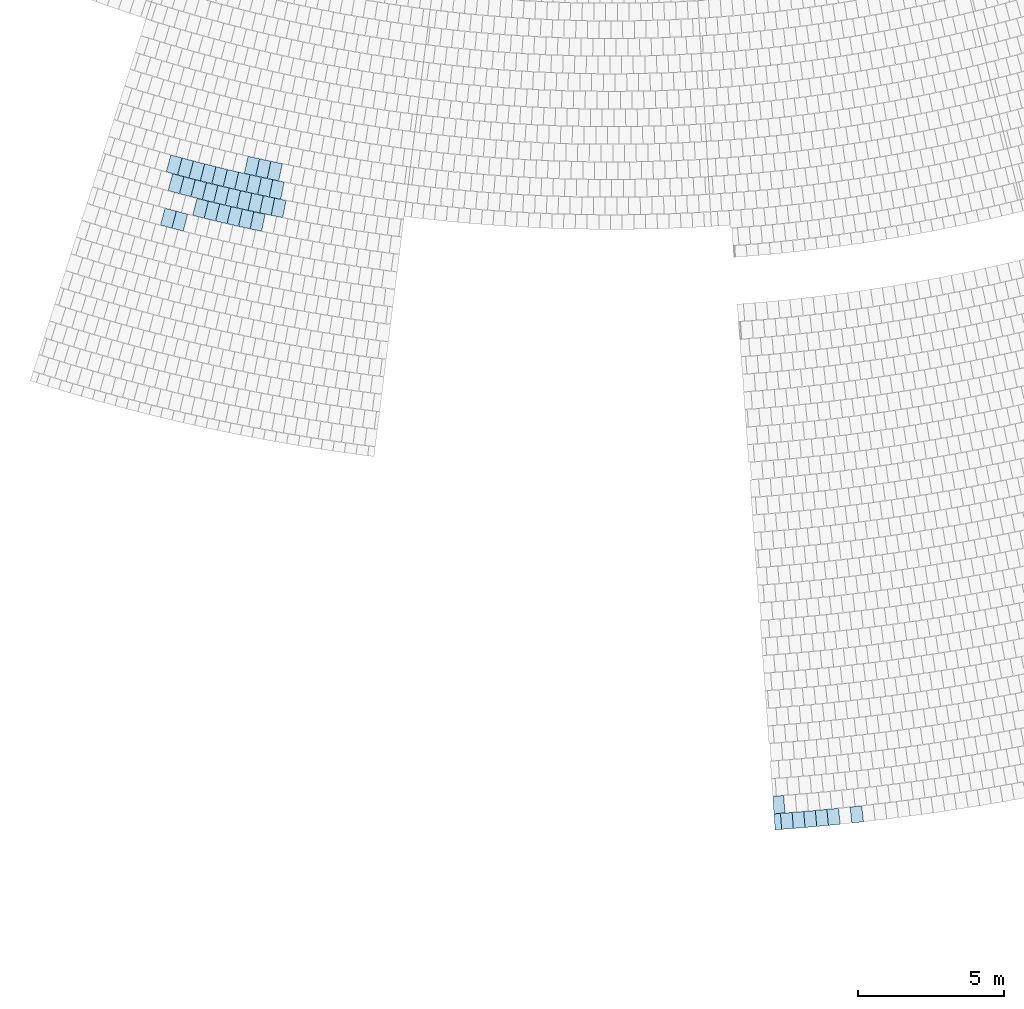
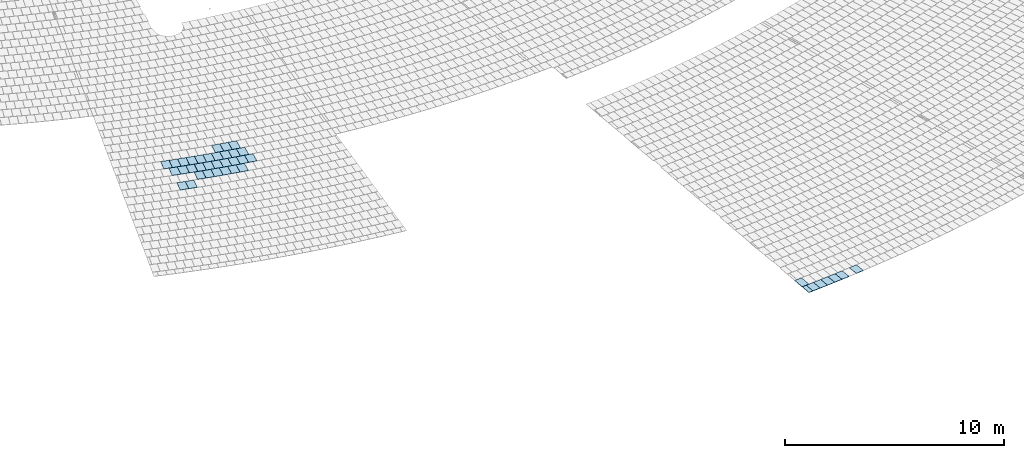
# One storey, part 22 of 438: 39 slabs.
"""IFC2X3 building model written with IfcOpenShell, lengths in millimetres."""

from ifc_helpers import new_model, entity, si_unit, converted_unit, derived_unit, direction, frame, frame_2d, origin, place, context, subcontext, project, spatial, polyline, rectangle, outline, extrude, material, layer, layer_set, layer_usage, type_object, element, save


model = new_model("IFC2X3")

# Units and contexts
model_context = context("Model", 3, precision=0.01, world=origin(), true_north=direction((6.123031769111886e-17, 1.0)))
body_context = subcontext(model_context, "Body", "Model", "MODEL_VIEW")
ifc_project = project(units=[si_unit("LENGTHUNIT", "METRE", prefix="MILLI"), si_unit("AREAUNIT", "SQUARE_METRE"), si_unit("VOLUMEUNIT", "CUBIC_METRE"), converted_unit("PLANEANGLEUNIT", "DEGREE", entity("IfcRatioMeasure", 0.017453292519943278), si_unit("PLANEANGLEUNIT", "RADIAN"), dimensions=[0, 0, 0, 0, 0, 0, 0]), si_unit("MASSUNIT", "GRAM", prefix="KILO"), derived_unit("MASSDENSITYUNIT", [(si_unit("MASSUNIT", "GRAM", prefix="KILO"), 1), (si_unit("LENGTHUNIT", "METRE"), -3)]), derived_unit("MOMENTOFINERTIAUNIT", [(si_unit("LENGTHUNIT", "METRE"), 4)]), si_unit("TIMEUNIT", "SECOND"), si_unit("FREQUENCYUNIT", "HERTZ"), si_unit("THERMODYNAMICTEMPERATUREUNIT", "DEGREE_CELSIUS"), derived_unit("THERMALTRANSMITTANCEUNIT", [(si_unit("MASSUNIT", "GRAM", prefix="KILO"), 1), (si_unit("THERMODYNAMICTEMPERATUREUNIT", "KELVIN"), -1), (si_unit("TIMEUNIT", "SECOND"), -3)]), derived_unit("THERMALCONDUCTANCEUNIT", [(si_unit("MASSUNIT", "GRAM", prefix="KILO"), 1), (si_unit("LENGTHUNIT", "METRE"), 1), (si_unit("THERMODYNAMICTEMPERATUREUNIT", "KELVIN"), -1), (si_unit("TIMEUNIT", "SECOND"), -3)]), derived_unit("VOLUMETRICFLOWRATEUNIT", [(si_unit("LENGTHUNIT", "METRE"), 3), (si_unit("TIMEUNIT", "SECOND"), -1)]), derived_unit("MASSFLOWRATEUNIT", [(si_unit("MASSUNIT", "GRAM", prefix="KILO"), 1), (si_unit("TIMEUNIT", "SECOND"), -1)]), derived_unit("ROTATIONALFREQUENCYUNIT", [(si_unit("TIMEUNIT", "SECOND"), -1)]), si_unit("ELECTRICCURRENTUNIT", "AMPERE"), si_unit("ELECTRICVOLTAGEUNIT", "VOLT"), si_unit("POWERUNIT", "WATT"), converted_unit("FORCEUNIT", "KIP", entity("IfcRatioMeasure", 2.088543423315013e-05), si_unit("FORCEUNIT", "NEWTON"), dimensions=[1, 1, -2, 0, 0, 0, 0]), si_unit("ILLUMINANCEUNIT", "LUX"), si_unit("LUMINOUSFLUXUNIT", "LUMEN"), si_unit("LUMINOUSINTENSITYUNIT", "CANDELA"), derived_unit("USERDEFINED", [(si_unit("MASSUNIT", "GRAM", prefix="KILO"), -1), (si_unit("LENGTHUNIT", "METRE"), -2), (si_unit("TIMEUNIT", "SECOND"), 3), (si_unit("LUMINOUSFLUXUNIT", "LUMEN"), 1)]), derived_unit("USERDEFINED", [(si_unit("MASSUNIT", "GRAM", prefix="KILO"), 1), (si_unit("LENGTHUNIT", "METRE"), 3), (si_unit("TIMEUNIT", "SECOND"), -3), (si_unit("ELECTRICCURRENTUNIT", "AMPERE"), -2)]), derived_unit("USERDEFINED", [(si_unit("LENGTHUNIT", "METRE"), 2), (si_unit("TIMEUNIT", "SECOND"), -2)]), derived_unit("SOUNDPOWERUNIT", [(si_unit("MASSUNIT", "GRAM", prefix="KILO"), 1), (si_unit("LENGTHUNIT", "METRE"), 2), (si_unit("TIMEUNIT", "SECOND"), -3)]), derived_unit("SOUNDPRESSUREUNIT", [(si_unit("MASSUNIT", "GRAM", prefix="KILO"), 1), (si_unit("LENGTHUNIT", "METRE"), -1), (si_unit("TIMEUNIT", "SECOND"), -2)]), derived_unit("LINEARVELOCITYUNIT", [(si_unit("LENGTHUNIT", "METRE"), 1), (si_unit("TIMEUNIT", "SECOND"), -1)]), si_unit("PRESSUREUNIT", "PASCAL"), derived_unit("USERDEFINED", [(si_unit("LENGTHUNIT", "METRE"), -2), (si_unit("MASSUNIT", "GRAM", prefix="KILO"), 1), (si_unit("TIMEUNIT", "SECOND"), -2)]), derived_unit("LINEARFORCEUNIT", [(si_unit("MASSUNIT", "GRAM", prefix="KILO"), 1), (si_unit("LENGTHUNIT", "METRE"), 1), (si_unit("TIMEUNIT", "SECOND"), -2), (si_unit("LENGTHUNIT", "METRE"), -1)]), derived_unit("PLANARFORCEUNIT", [(si_unit("MASSUNIT", "GRAM", prefix="KILO"), 1), (si_unit("LENGTHUNIT", "METRE"), 1), (si_unit("TIMEUNIT", "SECOND"), -2), (si_unit("LENGTHUNIT", "METRE"), -2)]), derived_unit("SPECIFICHEATCAPACITYUNIT", [(si_unit("LENGTHUNIT", "METRE"), 2), (si_unit("TIMEUNIT", "SECOND"), -2), (si_unit("THERMODYNAMICTEMPERATUREUNIT", "KELVIN"), -1)]), derived_unit("VAPORPERMEABILITYUNIT", [(si_unit("TIMEUNIT", "SECOND"), 1), (si_unit("LENGTHUNIT", "METRE"), -1)]), derived_unit("DYNAMICVISCOSITYUNIT", [(si_unit("MASSUNIT", "GRAM", prefix="KILO"), 1), (si_unit("LENGTHUNIT", "METRE"), -1), (si_unit("TIMEUNIT", "SECOND"), -1)]), derived_unit("THERMALEXPANSIONCOEFFICIENTUNIT", [(si_unit("THERMODYNAMICTEMPERATUREUNIT", "KELVIN"), -1)])], contexts=[model_context])

# Site, building, storey
site_placement = place(None, frame((0.0, 0.0, 0.0), z_axis=(0.0, 0.0, 1.0), x_axis=(0.8191520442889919, 0.5735764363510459, 0.0)))
site = spatial("IfcSite", under=ifc_project, at=site_placement, Name="Default", CompositionType="ELEMENT")
building_placement = place(site_placement, origin())
building = spatial("IfcBuilding", under=site, at=building_placement, CompositionType="ELEMENT")
storey_placement = place(building_placement, origin())
storey = spatial("IfcBuildingStorey", under=building, at=storey_placement, Name="PLAN", CompositionType="ELEMENT", Elevation=0.0)

# Slabs
ifc_material = material(Name="Paint-01")
ifc_layer = layer(ifc_material, 20.00000000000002)
ifc_layer_set = layer_set([ifc_layer], Name="Floor:Slab-179:1000")
ifc_layer_usage = layer_usage(ifc_layer_set, "AXIS3", "POSITIVE", 0.0)
slab_type = type_object("IfcSlabType", Name="Floor:Slab-179:1000", PredefinedType="FLOOR", material=ifc_layer_set)
slab_1_placement = place(storey_placement, origin())
element("IfcSlab", 1, at=slab_1_placement, inside=storey, type_object=slab_type, material=ifc_layer_usage, Name="Floor:Slab-179:1000", ObjectType="Floor:Slab-179:1000", PredefinedType="FLOOR", context=body_context, shape_type="SweptSolid", body=[
    extrude(outline(polyline([(-275.00000059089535, -111.17667007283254), (274.9999994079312, -111.17667007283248), (275.0000005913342, 111.25575875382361), (-274.99999940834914, 111.09758139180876), (-275.00000059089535, -111.17667007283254)])), frame((-80104.99452993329, -134719.63903402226, 20.0), z_axis=(0.0, 0.0, -1.0), x_axis=(-0.5128225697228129, -0.8584946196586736, 0.0)), (0.0, 0.0, 1.0), 20.000000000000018),
])
slab_2_placement = place(storey_placement, origin())
element("IfcSlab", 2, at=slab_2_placement, inside=storey, type_object=slab_type, material=ifc_layer_usage, Name="Floor:Slab-179:1000", ObjectType="Floor:Slab-179:1000", PredefinedType="FLOOR", context=body_context, shape_type="SweptSolid", body=[
    extrude(outline(polyline([(-275.00000106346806, -200.0000029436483), (274.9999989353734, -200.00000294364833), (275.00000106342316, 200.00000294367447), (-274.99999893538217, 200.00000294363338), (-275.00000106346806, -200.0000029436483)])), frame((-79489.90205248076, -135082.23535696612, 20.0), z_axis=(0.0, 0.0, -1.0), x_axis=(-0.5039277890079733, -0.8637457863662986, 0.0)), (0.0, 0.0, 1.0), 20.00000000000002),
])
slab_3_placement = place(storey_placement, origin())
element("IfcSlab", 3, at=slab_3_placement, inside=storey, type_object=slab_type, material=ifc_layer_usage, Name="Floor:Slab-179:1000", ObjectType="Floor:Slab-179:1000", PredefinedType="FLOOR", context=body_context, shape_type="SweptSolid", body=[
    extrude(outline(polyline([(-275.0000010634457, -200.00000294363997), (274.99999893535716, -200.00000294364), (275.0000010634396, 200.00000294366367), (-274.9999989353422, 200.0000029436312), (-275.0000010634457, -200.00000294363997)])), frame((-79836.10244921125, -134879.054527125, 20.0), z_axis=(0.0, 0.0, -1.0), x_axis=(-0.5083819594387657, -0.8611316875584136, 0.0)), (0.0, 0.0, 1.0), 20.00000000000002),
])
slab_4_placement = place(storey_placement, origin())
element("IfcSlab", 4, at=slab_4_placement, inside=storey, type_object=slab_type, material=ifc_layer_usage, Name="Floor:Slab-179:1000", ObjectType="Floor:Slab-179:1000", PredefinedType="FLOOR", context=body_context, shape_type="SweptSolid", body=[
    extrude(rectangle(XDim=549.9998931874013, YDim=399.99992820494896, at=frame_2d((1.6143530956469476e-11, 1.0672351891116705e-11), x_axis=(1.0, 0.0))), frame((-79142.74302947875, -135283.43185565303, 20.0), z_axis=(0.0, 0.0, -1.0), x_axis=(-0.4999999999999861, -0.8660254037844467, 0.0)), (0.0, 0.0, 1.0), 20.00000000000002),
])
slab_5_placement = place(storey_placement, origin())
element("IfcSlab", 5, at=slab_5_placement, inside=storey, type_object=slab_type, material=ifc_layer_usage, Name="Floor:Slab-179:1000", ObjectType="Floor:Slab-179:1000", PredefinedType="FLOOR", context=body_context, shape_type="SweptSolid", body=[
    extrude(outline(polyline([(-275.0000010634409, -200.0000029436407), (274.99999893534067, -200.00000294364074), (275.00000106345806, 200.00000294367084), (-274.99999893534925, 200.00000294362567), (-275.0000010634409, -200.0000029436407)])), frame((-78794.37633670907, -135483.21956851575, 20.0), z_axis=(0.0, 0.0, -1.0), x_axis=(-0.49497924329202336, -0.8689047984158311, 0.0)), (0.0, 0.0, 1.0), 20.000000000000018),
])
slab_6_placement = place(storey_placement, origin())
element("IfcSlab", 6, at=slab_6_placement, inside=storey, type_object=slab_type, material=ifc_layer_usage, Name="Floor:Slab-179:1000", ObjectType="Floor:Slab-179:1000", PredefinedType="FLOOR", context=body_context, shape_type="SweptSolid", body=[
    extrude(outline(polyline([(-275.0000010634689, -200.00000294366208), (274.99999893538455, -200.00000294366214), (275.0000010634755, 200.0000029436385), (-274.9999989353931, 200.00000294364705), (-275.0000010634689, -200.00000294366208)])), frame((-78445.06956952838, -135681.01225471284, 20.0), z_axis=(0.0, 0.0, -1.0), x_axis=(-0.490485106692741, -0.8714495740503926, 0.0)), (0.0, 0.0, 1.0), 20.00000000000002),
])
slab_7_placement = place(storey_placement, origin())
element("IfcSlab", 7, at=slab_7_placement, inside=storey, type_object=slab_type, material=ifc_layer_usage, Name="Floor:Slab-179:1000", ObjectType="Floor:Slab-179:1000", PredefinedType="FLOOR", context=body_context, shape_type="SweptSolid", body=[
    extrude(outline(polyline([(-275.0000010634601, -200.00000294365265), (274.9999989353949, -200.00000294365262), (275.00000106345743, 200.00000294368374), (-274.9999989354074, 200.00000294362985), (-275.0000010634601, -200.00000294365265)])), frame((-77743.41480188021, -136071.1724093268, 20.0), z_axis=(0.0, 0.0, -1.0), x_axis=(-0.48145770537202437, -0.8764693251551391, 0.0)), (0.0, 0.0, 1.0), 20.00000000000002),
])
slab_8_placement = place(storey_placement, origin())
element("IfcSlab", 8, at=slab_8_placement, inside=storey, type_object=slab_type, material=ifc_layer_usage, Name="Floor:Slab-179:1000", ObjectType="Floor:Slab-179:1000", PredefinedType="FLOOR", context=body_context, shape_type="SweptSolid", body=[
    extrude(outline(polyline([(-300.0000009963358, -187.17358979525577), (299.9999990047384, -187.17358979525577), (300.00000099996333, 187.8515877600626), (-299.9999990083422, 186.49559183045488), (-300.0000009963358, -187.17358979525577)])), frame((-79742.08172411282, -134260.61987225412, 20.0), z_axis=(0.0, 0.0, -1.0), x_axis=(-0.5111282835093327, -0.8595044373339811, 0.0)), (0.0, 0.0, 1.0), 20.000000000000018),
])
slab_9_placement = place(storey_placement, origin())
element("IfcSlab", 9, at=slab_9_placement, inside=storey, type_object=slab_type, material=ifc_layer_usage, Name="Floor:Slab-179:1000", ObjectType="Floor:Slab-179:1000", PredefinedType="FLOOR", context=body_context, shape_type="SweptSolid", body=[
    extrude(outline(polyline([(-299.99999762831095, -200.00000294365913), (300.0, -200.00000294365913), (299.99999762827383, 200.0000029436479), (-300.0, 200.00000294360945), (-299.99999762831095, -200.00000294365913)])), frame((-81748.6978833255, -107077.23027932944, 520.0), z_axis=(0.0, 0.0, -1.0), x_axis=(-0.7269734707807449, -0.6866655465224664, 0.0)), (0.0, 0.0, 1.0), 19.99999999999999),
])
slab_10_placement = place(storey_placement, origin())
element("IfcSlab", 10, at=slab_10_placement, inside=storey, type_object=slab_type, material=ifc_layer_usage, Name="Floor:Slab-179:1000", ObjectType="Floor:Slab-179:1000", PredefinedType="FLOOR", context=body_context, shape_type="SweptSolid", body=[
    extrude(outline(polyline([(-299.9999976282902, -200.00000294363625), (300.0, -200.00000294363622), (299.9999976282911, 200.00000294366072), (-300.0, 200.00000294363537), (-299.9999976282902, -200.00000294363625)])), frame((-82023.78291301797, -106783.93133704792, 520.0), z_axis=(0.0, 0.0, -1.0), x_axis=(-0.7318007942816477, -0.681518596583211, 0.0)), (0.0, 0.0, 1.0), 20.000000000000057),
])
slab_11_placement = place(storey_placement, origin())
element("IfcSlab", 11, at=slab_11_placement, inside=storey, type_object=slab_type, material=ifc_layer_usage, Name="Floor:Slab-179:1000", ObjectType="Floor:Slab-179:1000", PredefinedType="FLOOR", context=body_context, shape_type="SweptSolid", body=[
    extrude(outline(polyline([(-200.00000134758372, -299.9999986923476), (200.000004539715, -299.9999986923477), (200.0000013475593, 299.99999869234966), (-200.00000453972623, 299.99999869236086), (-200.00000134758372, -299.9999986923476)])), frame((-84206.51700184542, -105240.58715634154, 520.0), z_axis=(0.0, 0.0, -1.0), x_axis=(0.6475602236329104, -0.762014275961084, 0.0)), (0.0, 0.0, 1.0), 20.000000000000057),
])
slab_12_placement = place(storey_placement, origin())
element("IfcSlab", 12, at=slab_12_placement, inside=storey, type_object=slab_type, material=ifc_layer_usage, Name="Floor:Slab-179:1000", ObjectType="Floor:Slab-179:1000", PredefinedType="FLOOR", context=body_context, shape_type="SweptSolid", body=[
    extrude(outline(polyline([(-200.00000134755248, -299.99999869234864), (200.00000453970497, -299.99999869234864), (200.0000013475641, 299.9999986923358), (-200.00000453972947, 299.99999869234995), (-200.00000134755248, -299.99999869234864)])), frame((-83148.02153623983, -106451.48741320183, 520.0), z_axis=(0.0, 0.0, -1.0), x_axis=(0.6685864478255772, -0.7436344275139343, 0.0)), (0.0, 0.0, 1.0), 20.000000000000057),
])
slab_13_placement = place(storey_placement, origin())
element("IfcSlab", 13, at=slab_13_placement, inside=storey, type_object=slab_type, material=ifc_layer_usage, Name="Floor:Slab-179:1000", ObjectType="Floor:Slab-179:1000", PredefinedType="FLOOR", context=body_context, shape_type="SweptSolid", body=[
    extrude(outline(polyline([(-200.00000134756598, -299.9999986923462), (200.00000453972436, -299.99999869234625), (200.00000134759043, 299.99999869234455), (-200.00000453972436, 299.99999869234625), (-200.00000134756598, -299.9999986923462)])), frame((-83681.49658631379, -105849.73254880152, 520.0), z_axis=(0.0, 0.0, -1.0), x_axis=(0.6581375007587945, -0.7528977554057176, 0.0)), (0.0, 0.0, 1.0), 20.000000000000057),
])
slab_14_placement = place(storey_placement, origin())
element("IfcSlab", 14, at=slab_14_placement, inside=storey, type_object=slab_type, material=ifc_layer_usage, Name="Floor:Slab-179:1000", ObjectType="Floor:Slab-179:1000", PredefinedType="FLOOR", context=body_context, shape_type="SweptSolid", body=[
    extrude(outline(polyline([(-200.00000134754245, -299.9999986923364), (200.00000453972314, -299.9999986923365), (200.00000134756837, 299.99999869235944), (-200.00000453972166, 299.9999986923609), (-200.00000134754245, -299.9999986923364)])), frame((-83415.80942761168, -106151.54116455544, 520.0), z_axis=(0.0, 0.0, -1.0), x_axis=(0.6633781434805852, -0.7482843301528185, 0.0)), (0.0, 0.0, 1.0), 20.000000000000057),
])
slab_15_placement = place(storey_placement, origin())
element("IfcSlab", 15, at=slab_15_placement, inside=storey, type_object=slab_type, material=ifc_layer_usage, Name="Floor:Slab-179:1000", ObjectType="Floor:Slab-179:1000", PredefinedType="FLOOR", context=body_context, shape_type="SweptSolid", body=[
    extrude(outline(polyline([(-200.00000134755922, -299.99999869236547), (200.0000045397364, -299.99999869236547), (200.00000134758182, 299.9999986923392), (-200.00000453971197, 299.99999869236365), (-200.00000134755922, -299.99999869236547)])), frame((-83945.07006062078, -105546.0762785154, 520.0), z_axis=(0.0, 0.0, -1.0), x_axis=(0.6528647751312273, -0.7574744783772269, 0.0)), (0.0, 0.0, 1.0), 20.000000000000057),
])
slab_16_placement = place(storey_placement, origin())
element("IfcSlab", 16, at=slab_16_placement, inside=storey, type_object=slab_type, material=ifc_layer_usage, Name="Floor:Slab-179:1000", ObjectType="Floor:Slab-179:1000", PredefinedType="FLOOR", context=body_context, shape_type="SweptSolid", body=[
    extrude(outline(polyline([(-200.00000134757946, -299.9999986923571), (200.00000453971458, -299.99999869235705), (200.00000134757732, 299.99999869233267), (-200.00000453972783, 299.9999986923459), (-200.00000134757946, -299.9999986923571)])), frame((-84465.8246649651, -104933.28007427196, 520.0), z_axis=(0.0, 0.0, -1.0), x_axis=(0.6422241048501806, -0.7665169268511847, 0.0)), (0.0, 0.0, 1.0), 20.000000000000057),
])
slab_17_placement = place(storey_placement, origin())
element("IfcSlab", 17, at=slab_17_placement, inside=storey, type_object=slab_type, material=ifc_layer_usage, Name="Floor:Slab-179:1000", ObjectType="Floor:Slab-179:1000", PredefinedType="FLOOR", context=body_context, shape_type="SweptSolid", body=[
    extrude(outline(polyline([(-299.99999762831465, -200.00000294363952), (300.0, -200.00000294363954), (299.9999976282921, 200.00000294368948), (-300.0, 200.00000294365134), (-299.99999762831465, -200.00000294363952)])), frame((-82606.19587377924, -107045.73441352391, 520.0), z_axis=(0.0, 0.0, -1.0), x_axis=(-0.7342261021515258, -0.6789050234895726, 0.0)), (0.0, 0.0, 1.0), 20.000000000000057),
])
slab_18_placement = place(storey_placement, origin())
element("IfcSlab", 18, at=slab_18_placement, inside=storey, type_object=slab_type, material=ifc_layer_usage, Name="Floor:Slab-179:1000", ObjectType="Floor:Slab-179:1000", PredefinedType="FLOOR", context=body_context, shape_type="SweptSolid", body=[
    extrude(outline(polyline([(-299.99999762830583, -200.00000294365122), (300.0, -200.0000029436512), (299.99999762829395, 200.00000294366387), (-300.0, 200.0000029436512), (-299.99999762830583, -200.00000294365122)])), frame((-82332.18451562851, -107340.00619682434, 520.0), z_axis=(0.0, 0.0, -1.0), x_axis=(-0.7294681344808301, -0.6840147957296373, 0.0)), (0.0, 0.0, 1.0), 20.000000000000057),
])
slab_19_placement = place(storey_placement, origin())
element("IfcSlab", 19, at=slab_19_placement, inside=storey, type_object=slab_type, material=ifc_layer_usage, Name="Floor:Slab-179:1000", ObjectType="Floor:Slab-179:1000", PredefinedType="FLOOR", context=body_context, shape_type="SweptSolid", body=[
    extrude(outline(polyline([(-299.9999976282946, -200.00000294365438), (300.0, -200.00000294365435), (299.999997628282, 200.00000294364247), (-300.0, 200.0000029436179), (-299.9999976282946, -200.00000294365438)])), frame((-82056.12524938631, -107632.35767768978, 520.0), z_axis=(0.0, 0.0, -1.0), x_axis=(-0.7246746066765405, -0.6890912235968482, 0.0)), (0.0, 0.0, 1.0), 20.000000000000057),
])
slab_20_placement = place(storey_placement, origin())
element("IfcSlab", 20, at=slab_20_placement, inside=storey, type_object=slab_type, material=ifc_layer_usage, Name="Floor:Slab-179:1000", ObjectType="Floor:Slab-179:1000", PredefinedType="FLOOR", context=body_context, shape_type="SweptSolid", body=[
    extrude(outline(polyline([(-200.00000134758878, -299.9999986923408), (200.00000453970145, -299.9999986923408), (200.00000134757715, 299.99999869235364), (-200.00000453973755, 299.99999869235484), (-200.00000134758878, -299.9999986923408)])), frame((-83458.97798189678, -107009.96791165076, 520.0), z_axis=(0.0, 0.0, -1.0), x_axis=(0.6712324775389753, -0.7412468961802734, 0.0)), (0.0, 0.0, 1.0), 20.000000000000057),
])
slab_21_placement = place(storey_placement, origin())
element("IfcSlab", 21, at=slab_21_placement, inside=storey, type_object=slab_type, material=ifc_layer_usage, Name="Floor:Slab-179:1000", ObjectType="Floor:Slab-179:1000", PredefinedType="FLOOR", context=body_context, shape_type="SweptSolid", body=[
    extrude(outline(polyline([(-200.00000134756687, -299.99999869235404), (200.00000453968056, -299.99999869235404), (200.00000134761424, 299.99999869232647), (-200.00000453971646, 299.99999869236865), (-200.00000134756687, -299.99999869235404)])), frame((-83994.60900864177, -106410.18972741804, 520.0), z_axis=(0.0, 0.0, -1.0), x_axis=(0.6609261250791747, -0.7504509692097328, 0.0)), (0.0, 0.0, 1.0), 19.999999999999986),
])
slab_22_placement = place(storey_placement, origin())
element("IfcSlab", 22, at=slab_22_placement, inside=storey, type_object=slab_type, material=ifc_layer_usage, Name="Floor:Slab-179:1000", ObjectType="Floor:Slab-179:1000", PredefinedType="FLOOR", context=body_context, shape_type="SweptSolid", body=[
    extrude(outline(polyline([(-200.0000013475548, -299.9999986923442), (200.000004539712, -299.9999986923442), (200.00000134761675, 299.99999869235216), (-200.00000453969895, 299.9999986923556), (-200.0000013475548, -299.9999986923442)])), frame((-84259.30385999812, -106107.53946451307, 520.0), z_axis=(0.0, 0.0, -1.0), x_axis=(0.6557255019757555, -0.754999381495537, 0.0)), (0.0, 0.0, 1.0), 20.000000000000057),
])
slab_23_placement = place(storey_placement, origin())
element("IfcSlab", 23, at=slab_23_placement, inside=storey, type_object=slab_type, material=ifc_layer_usage, Name="Floor:Slab-179:1000", ObjectType="Floor:Slab-179:1000", PredefinedType="FLOOR", context=body_context, shape_type="SweptSolid", body=[
    extrude(outline(polyline([(-200.0000013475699, -299.99999869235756), (200.0000045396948, -299.99999869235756), (200.00000134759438, 299.9999986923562), (-200.00000453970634, 299.99999869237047), (-200.0000013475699, -299.99999869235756)])), frame((-83727.82947107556, -106711.00399620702, 520.0), z_axis=(0.0, 0.0, -1.0), x_axis=(0.666095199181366, -0.7458667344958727, 0.0)), (0.0, 0.0, 1.0), 20.000000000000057),
])
slab_24_placement = place(storey_placement, origin())
element("IfcSlab", 24, at=slab_24_placement, inside=storey, type_object=slab_type, material=ifc_layer_usage, Name="Floor:Slab-179:1000", ObjectType="Floor:Slab-179:1000", PredefinedType="FLOOR", context=body_context, shape_type="SweptSolid", body=[
    extrude(outline(polyline([(-299.9999976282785, -200.00000294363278), (300.0, -200.00000294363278), (299.99999762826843, 200.00000294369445), (-300.0, 200.0000029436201), (-299.9999976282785, -200.00000294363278)])), frame((-82915.11058099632, -107602.28768789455, 520.0), z_axis=(0.0, 0.0, -1.0), x_axis=(-0.7319012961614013, -0.681410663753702, 0.0)), (0.0, 0.0, 1.0), 19.999999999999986),
])
slab_25_placement = place(storey_placement, origin())
element("IfcSlab", 25, at=slab_25_placement, inside=storey, type_object=slab_type, material=ifc_layer_usage, Name="Floor:Slab-179:1000", ObjectType="Floor:Slab-179:1000", PredefinedType="FLOOR", context=body_context, shape_type="SweptSolid", body=[
    extrude(outline(polyline([(-200.0000013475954, -300.0), (200.00000453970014, -300.0), (200.00000134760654, 300.0), (-200.00000453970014, 300.0), (-200.0000013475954, -300.0)])), frame((-85357.84303138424, -105752.66214919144, 520.0), z_axis=(0.0, 0.0, -1.0), x_axis=(0.6429433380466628, -0.7659137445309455, 0.0)), (0.0, 0.0, 1.0), 20.00000000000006),
])
slab_26_placement = place(storey_placement, origin())
element("IfcSlab", 26, at=slab_26_placement, inside=storey, type_object=slab_type, material=ifc_layer_usage, Name="Floor:Slab-179:1000", ObjectType="Floor:Slab-179:1000", PredefinedType="FLOOR", context=body_context, shape_type="SweptSolid", body=[
    extrude(outline(polyline([(-200.000001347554, -300.0), (200.00000453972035, -300.0), (200.0000013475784, 300.0), (-200.00000453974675, 300.0), (-200.000001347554, -300.0)])), frame((-85098.29709475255, -106059.71142148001, 520.0), z_axis=(0.0, 0.0, -1.0), x_axis=(0.6481652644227, -0.76149969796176, 0.0)), (0.0, 0.0, 1.0), 19.999999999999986),
])
slab_27_placement = place(storey_placement, origin())
element("IfcSlab", 27, at=slab_27_placement, inside=storey, type_object=slab_type, material=ifc_layer_usage, Name="Floor:Slab-179:1000", ObjectType="Floor:Slab-179:1000", PredefinedType="FLOOR", context=body_context, shape_type="SweptSolid", body=[
    extrude(outline(polyline([(-200.00000134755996, -299.99999869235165), (200.0000045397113, -299.99999869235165), (200.0000013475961, 299.9999986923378), (-200.00000453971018, 299.99999869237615), (-200.00000134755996, -299.99999869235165)])), frame((-81986.87967559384, -105931.16628919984, 520.0), z_axis=(0.0, 0.0, -1.0), x_axis=(0.6737064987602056, -0.7389990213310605, 0.0)), (0.0, 0.0, 1.0), 19.999999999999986),
])
slab_28_placement = place(storey_placement, origin())
element("IfcSlab", 28, at=slab_28_placement, inside=storey, type_object=slab_type, material=ifc_layer_usage, Name="Floor:Slab-179:1000", ObjectType="Floor:Slab-179:1000", PredefinedType="FLOOR", context=body_context, shape_type="SweptSolid", body=[
    extrude(outline(polyline([(-200.00000134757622, -299.999998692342), (200.00000453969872, -299.99999869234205), (200.00000134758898, 299.99999869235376), (-200.00000453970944, 299.9999986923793), (-200.00000134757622, -299.999998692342)])), frame((-82296.79144375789, -106488.69857252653, 520.0), z_axis=(0.0, 0.0, -1.0), x_axis=(0.676337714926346, -0.7365916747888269, 0.0)), (0.0, 0.0, 1.0), 19.99999999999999),
])
slab_29_placement = place(storey_placement, origin())
element("IfcSlab", 29, at=slab_29_placement, inside=storey, type_object=slab_type, material=ifc_layer_usage, Name="Floor:Slab-179:1000", ObjectType="Floor:Slab-179:1000", PredefinedType="FLOOR", context=body_context, shape_type="SweptSolid", body=[
    extrude(outline(polyline([(-200.00000134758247, -299.9999986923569), (200.0000045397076, -299.9999986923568), (200.00000134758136, 299.99999869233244), (-200.0000045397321, 299.99999869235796), (-200.00000134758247, -299.9999986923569)])), frame((-82878.14596633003, -106749.55667295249, 520.0), z_axis=(0.0, 0.0, -1.0), x_axis=(0.6737621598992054, -0.7389482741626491, 0.0)), (0.0, 0.0, 1.0), 20.000000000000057),
])
slab_30_placement = place(storey_placement, origin())
element("IfcSlab", 30, at=slab_30_placement, inside=storey, type_object=slab_type, material=ifc_layer_usage, Name="Floor:Slab-179:1000", ObjectType="Floor:Slab-179:1000", PredefinedType="FLOOR", context=body_context, shape_type="SweptSolid", body=[
    extrude(outline(polyline([(-200.0000013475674, -299.9999986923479), (200.00000453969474, -299.9999986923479), (200.0000013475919, 299.9999986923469), (-200.00000453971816, 299.9999986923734), (-200.0000013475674, -299.9999986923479)])), frame((-83188.06737460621, -107307.06720284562, 520.0), z_axis=(0.0, 0.0, -1.0), x_axis=(0.6763377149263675, -0.736591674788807, 0.0)), (0.0, 0.0, 1.0), 20.000000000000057),
])
slab_31_placement = place(storey_placement, origin())
element("IfcSlab", 31, at=slab_31_placement, inside=storey, type_object=slab_type, material=ifc_layer_usage, Name="Floor:Slab-179:1000", ObjectType="Floor:Slab-179:1000", PredefinedType="FLOOR", context=body_context, shape_type="SweptSolid", body=[
    extrude(outline(polyline([(-299.999997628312, -200.00000294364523), (300.0, -200.00000294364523), (299.99999762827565, 200.00000294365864), (-300.0, 200.00000294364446), (-299.999997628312, -200.00000294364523)])), frame((-81440.81267376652, -106521.64073413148, 520.0), z_axis=(0.0, 0.0, -1.0), x_axis=(-0.7293135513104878, -0.6841796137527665, 0.0)), (0.0, 0.0, 1.0), 20.000000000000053),
])
slab_32_placement = place(storey_placement, origin())
element("IfcSlab", 32, at=slab_32_placement, inside=storey, type_object=slab_type, material=ifc_layer_usage, Name="Floor:Slab-179:1000", ObjectType="Floor:Slab-179:1000", PredefinedType="FLOOR", context=body_context, shape_type="SweptSolid", body=[
    extrude(outline(polyline([(-299.9999976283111, -200.00000294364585), (300.0, -200.00000294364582), (299.9999976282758, 200.00000294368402), (-300.0, 200.00000294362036), (-299.9999976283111, -200.00000294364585)])), frame((-81714.89908918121, -106227.37724028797, 520.0), z_axis=(0.0, 0.0, -1.0), x_axis=(-0.7341749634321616, -0.6789603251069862, 0.0)), (0.0, 0.0, 1.0), 19.999999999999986),
])
slab_33_placement = place(storey_placement, origin())
element("IfcSlab", 33, at=slab_33_placement, inside=storey, type_object=slab_type, material=ifc_layer_usage, Name="Floor:Slab-179:1000", ObjectType="Floor:Slab-179:1000", PredefinedType="FLOOR", context=body_context, shape_type="SweptSolid", body=[
    extrude(outline(polyline([(-200.0000013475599, -299.99999869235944), (200.00000453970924, -299.9999986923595), (200.00000134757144, 299.99999869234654), (-200.00000453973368, 299.99999869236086), (-200.0000013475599, -299.99999869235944)])), frame((-82836.524735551, -105892.49047577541, 520.0), z_axis=(0.0, 0.0, -1.0), x_axis=(0.6658751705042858, -0.7460631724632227, 0.0)), (0.0, 0.0, 1.0), 20.000000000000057),
])
slab_34_placement = place(storey_placement, origin())
element("IfcSlab", 34, at=slab_34_placement, inside=storey, type_object=slab_type, material=ifc_layer_usage, Name="Floor:Slab-179:1000", ObjectType="Floor:Slab-179:1000", PredefinedType="FLOOR", context=body_context, shape_type="SweptSolid", body=[
    extrude(outline(polyline([(-200.00000134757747, -299.9999986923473), (200.00000453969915, -299.9999986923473), (200.00000134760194, 299.99999869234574), (-200.00000453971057, 299.9999986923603), (-200.00000134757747, -299.9999986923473)])), frame((-83103.22262104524, -105591.54483121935, 520.0), z_axis=(0.0, 0.0, -1.0), x_axis=(0.6605940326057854, -0.7507433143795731, 0.0)), (0.0, 0.0, 1.0), 20.000000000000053),
])
slab_35_placement = place(storey_placement, origin())
element("IfcSlab", 35, at=slab_35_placement, inside=storey, type_object=slab_type, material=ifc_layer_usage, Name="Floor:Slab-179:1000", ObjectType="Floor:Slab-179:1000", PredefinedType="FLOOR", context=body_context, shape_type="SweptSolid", body=[
    extrude(outline(polyline([(-200.00000134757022, -299.9999986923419), (200.00000453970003, -299.9999986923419), (200.00000134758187, 299.9999986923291), (-200.0000045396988, 299.9999986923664), (-200.00000134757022, -299.9999986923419)])), frame((-82567.70988131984, -106191.54668662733, 520.0), z_axis=(0.0, 0.0, -1.0), x_axis=(0.6711231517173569, -0.7413458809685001, 0.0)), (0.0, 0.0, 1.0), 20.000000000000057),
])
slab_36_placement = place(storey_placement, origin())
element("IfcSlab", 36, at=slab_36_placement, inside=storey, type_object=slab_type, material=ifc_layer_usage, Name="Floor:Slab-179:1000", ObjectType="Floor:Slab-179:1000", PredefinedType="FLOOR", context=body_context, shape_type="SweptSolid", body=[
    extrude(outline(polyline([(-200.00000134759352, -299.99999869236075), (200.00000453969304, -299.9999986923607), (200.0000013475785, 299.99999869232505), (-200.00000453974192, 299.99999869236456), (-200.00000134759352, -299.99999869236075)])), frame((-83630.21447192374, -104984.04527565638, 520.0), z_axis=(0.0, 0.0, -1.0), x_axis=(0.6499333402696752, -0.7599912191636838, 0.0)), (0.0, 0.0, 1.0), 20.000000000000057),
])
slab_37_placement = place(storey_placement, origin())
element("IfcSlab", 37, at=slab_37_placement, inside=storey, type_object=slab_type, material=ifc_layer_usage, Name="Floor:Slab-179:1000", ObjectType="Floor:Slab-179:1000", PredefinedType="FLOOR", context=body_context, shape_type="SweptSolid", body=[
    extrude(outline(polyline([(-200.00000134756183, -299.999998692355), (200.0000045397, -299.999998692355), (200.00000134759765, 299.9999986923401), (-200.00000453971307, 299.99999869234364), (-200.00000134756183, -299.999998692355)])), frame((-83367.79025780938, -105288.72473829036, 520.0), z_axis=(0.0, 0.0, -1.0), x_axis=(0.655280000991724, -0.755386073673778, 0.0)), (0.0, 0.0, 1.0), 20.000000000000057),
])
slab_38_placement = place(storey_placement, origin())
element("IfcSlab", 38, at=slab_38_placement, inside=storey, type_object=slab_type, material=ifc_layer_usage, Name="Floor:Slab-179:1000", ObjectType="Floor:Slab-179:1000", PredefinedType="FLOOR", context=body_context, shape_type="SweptSolid", body=[
    extrude(outline(polyline([(-200.00000134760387, -299.9999986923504), (200.0000045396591, -299.99999869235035), (200.00000134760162, 299.99999869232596), (-200.00000453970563, 299.9999986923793), (-200.00000134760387, -299.9999986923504)])), frame((-84148.58047082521, -104369.16901811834, 520.0), z_axis=(0.0, 0.0, -1.0), x_axis=(0.6391431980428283, -0.7690877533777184, 0.0)), (0.0, 0.0, 1.0), 19.999999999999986),
])
slab_39_placement = place(storey_placement, origin())
element("IfcSlab", 39, at=slab_39_placement, inside=storey, type_object=slab_type, material=ifc_layer_usage, Name="Floor:Slab-179:1000", ObjectType="Floor:Slab-179:1000", PredefinedType="FLOOR", context=body_context, shape_type="SweptSolid", body=[
    extrude(outline(polyline([(-200.00000134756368, -299.99999869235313), (200.00000453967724, -299.99999869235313), (200.00000134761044, 299.9999986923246), (-200.0000045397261, 299.99999869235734), (-200.00000134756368, -299.99999869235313)])), frame((-83890.48219619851, -104677.52161457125, 520.0), z_axis=(0.0, 0.0, -1.0), x_axis=(0.6445543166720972, -0.7645585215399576, 0.0)), (0.0, 0.0, 1.0), 20.000000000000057),
])

save(model, "model.ifc")
